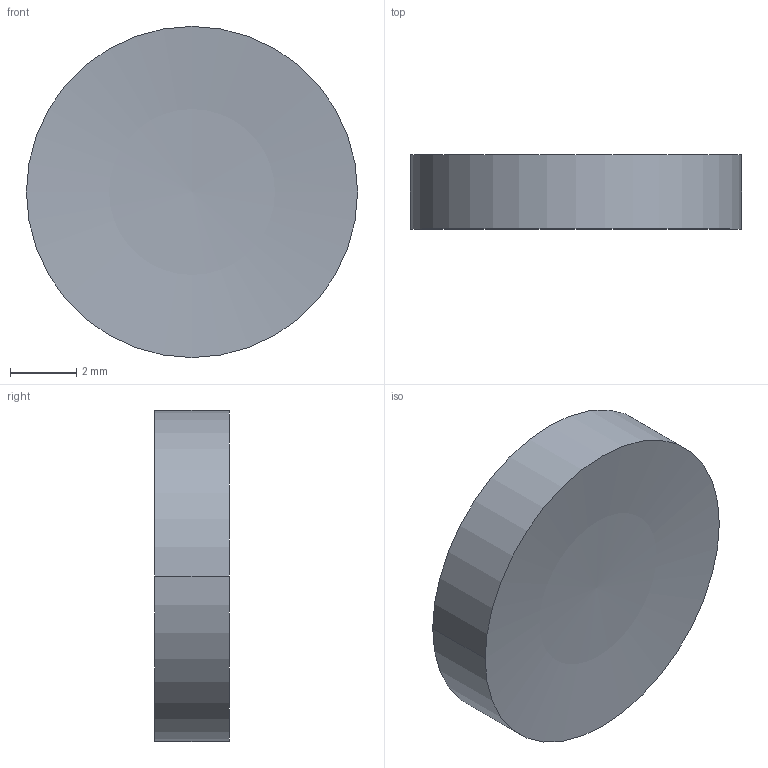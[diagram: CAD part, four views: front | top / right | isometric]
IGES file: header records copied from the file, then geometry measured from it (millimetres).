
Global section: file name: No Iges File Name specified; native system: AutoDesk Inventor R12.0; preprocessor: AutoDesk Inventor Iges Exporter R12.0; author: No Author specified; organization: No Organization specified; date: 20090521.130511; units: millimetre
Bounding box: 10 x 2.24 x 10 mm (x, y, z)
Volume: 166.6 mm3; surface area: 227.7 mm2
Topology: 1 solids, 1 shells, 4 faces, 6 edges, 4 vertices
Faces by surface type: cylinder 2, bspline 1, plane 1
